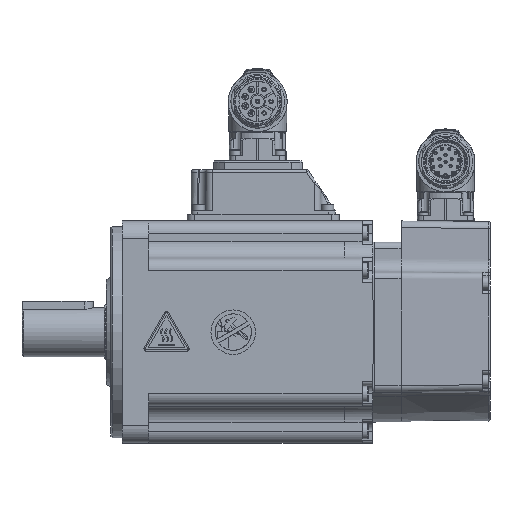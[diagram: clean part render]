
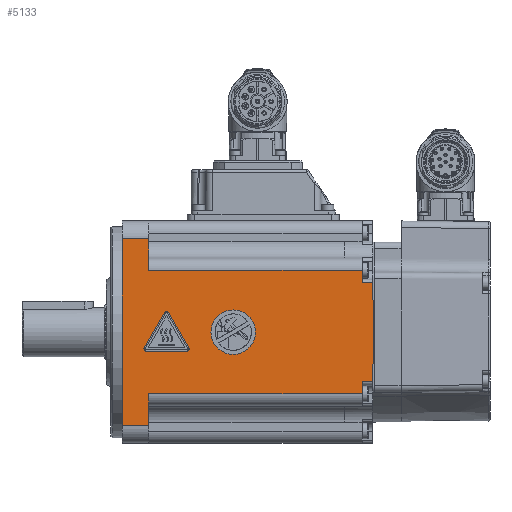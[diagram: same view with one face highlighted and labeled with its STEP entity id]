
A CAD part, front view. The second image highlights one B-rep face of the part: STEP entity #5133.
In plain terms, the highlighted planar face has unit normal (0, -1, 0).
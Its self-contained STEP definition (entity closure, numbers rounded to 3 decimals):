
#5133 = ADVANCED_FACE( '', ( #12302, #12303, #12304 ), #12305, .T. );
#12302 = FACE_BOUND( '', #24483, .T. );
#12303 = FACE_OUTER_BOUND( '', #24484, .T. );
#12304 = FACE_BOUND( '', #24485, .T. );
#12305 = PLANE( '', #24486 );
#24483 = EDGE_LOOP( '', ( #43947 ) );
#24484 = EDGE_LOOP( '', ( #43948, #43949, #43950, #43951, #43952, #43953, #43954, #43955, #43956, #43957, #43958, #43959, #43960 ) );
#24485 = EDGE_LOOP( '', ( #43961, #43962, #43963, #43964, #43965, #43966 ) );
#24486 = AXIS2_PLACEMENT_3D( '', #43967, #43968, #43969 );
#43947 = ORIENTED_EDGE( '', *, *, #63269, .F. );
#43948 = ORIENTED_EDGE( '', *, *, #62633, .T. );
#43949 = ORIENTED_EDGE( '', *, *, #63270, .T. );
#43950 = ORIENTED_EDGE( '', *, *, #63271, .T. );
#43951 = ORIENTED_EDGE( '', *, *, #63272, .T. );
#43952 = ORIENTED_EDGE( '', *, *, #63273, .T. );
#43953 = ORIENTED_EDGE( '', *, *, #62337, .T. );
#43954 = ORIENTED_EDGE( '', *, *, #63274, .T. );
#43955 = ORIENTED_EDGE( '', *, *, #63275, .T. );
#43956 = ORIENTED_EDGE( '', *, *, #63062, .F. );
#43957 = ORIENTED_EDGE( '', *, *, #63276, .T. );
#43958 = ORIENTED_EDGE( '', *, *, #63277, .T. );
#43959 = ORIENTED_EDGE( '', *, *, #63278, .T. );
#43960 = ORIENTED_EDGE( '', *, *, #63279, .F. );
#43961 = ORIENTED_EDGE( '', *, *, #63280, .F. );
#43962 = ORIENTED_EDGE( '', *, *, #62112, .F. );
#43963 = ORIENTED_EDGE( '', *, *, #63281, .F. );
#43964 = ORIENTED_EDGE( '', *, *, #59310, .F. );
#43965 = ORIENTED_EDGE( '', *, *, #60570, .F. );
#43966 = ORIENTED_EDGE( '', *, *, #63282, .F. );
#43967 = CARTESIAN_POINT( '', ( 138.642, -50., -50. ) );
#43968 = DIRECTION( '', ( 0., -1., 0. ) );
#43969 = DIRECTION( '', ( 1., 0., 0. ) );
#59310 = EDGE_CURVE( 'NONE', #69763, #69764, #69765, .T. );
#60570 = EDGE_CURVE( 'NONE', #71861, #69763, #71862, .T. );
#62112 = EDGE_CURVE( 'NONE', #74300, #74301, #74302, .T. );
#62337 = EDGE_CURVE( '', #74638, #74635, #74639, .F. );
#62633 = EDGE_CURVE( '', #75059, #75057, #75060, .T. );
#63062 = EDGE_CURVE( '', #75701, #75703, #75704, .T. );
#63269 = EDGE_CURVE( '', #76000, #76000, #76001, .T. );
#63270 = EDGE_CURVE( '', #75057, #76002, #76003, .T. );
#63271 = EDGE_CURVE( '', #76002, #76004, #76005, .F. );
#63272 = EDGE_CURVE( '', #76004, #76006, #76007, .T. );
#63273 = EDGE_CURVE( '', #76006, #74638, #76008, .T. );
#63274 = EDGE_CURVE( '', #74635, #76009, #76010, .T. );
#63275 = EDGE_CURVE( '', #76009, #75703, #76011, .T. );
#63276 = EDGE_CURVE( '', #75701, #76012, #76013, .T. );
#63277 = EDGE_CURVE( '', #76012, #76014, #76015, .T. );
#63278 = EDGE_CURVE( '', #76014, #76016, #76017, .F. );
#63279 = EDGE_CURVE( '', #75059, #76016, #76018, .T. );
#63280 = EDGE_CURVE( 'NONE', #74301, #76019, #76020, .T. );
#63281 = EDGE_CURVE( 'NONE', #69764, #74300, #76021, .T. );
#63282 = EDGE_CURVE( 'NONE', #76019, #71861, #76022, .T. );
#69763 = VERTEX_POINT( '', #85967 );
#69764 = VERTEX_POINT( 'NONE', #85968 );
#69765 = LINE( '', #85969, #85970 );
#71861 = VERTEX_POINT( 'NONE', #90269 );
#71862 = CIRCLE( '', #90270, 1. );
#74300 = VERTEX_POINT( 'NONE', #95251 );
#74301 = VERTEX_POINT( 'NONE', #95252 );
#74302 = LINE( '', #95253, #95254 );
#74635 = VERTEX_POINT( '', #96004 );
#74638 = VERTEX_POINT( '', #96007 );
#74639 = LINE( '', #96008, #96009 );
#75057 = VERTEX_POINT( '', #96803 );
#75059 = VERTEX_POINT( '', #96805 );
#75060 = LINE( '', #96806, #96807 );
#75701 = VERTEX_POINT( '', #97848 );
#75703 = VERTEX_POINT( '', #97850 );
#75704 = LINE( '', #97851, #97852 );
#76000 = VERTEX_POINT( '', #98375 );
#76001 = CIRCLE( '', #98376, 10. );
#76002 = VERTEX_POINT( '', #98377 );
#76003 = LINE( '', #98378, #98379 );
#76004 = VERTEX_POINT( '', #98380 );
#76005 = LINE( '', #98381, #98382 );
#76006 = VERTEX_POINT( '', #98383 );
#76007 = LINE( '', #98384, #98385 );
#76008 = LINE( '', #98386, #98387 );
#76009 = VERTEX_POINT( '', #98388 );
#76010 = LINE( '', #98389, #98390 );
#76011 = LINE( '', #98391, #98392 );
#76012 = VERTEX_POINT( '', #98393 );
#76013 = LINE( '', #98394, #98395 );
#76014 = VERTEX_POINT( '', #98396 );
#76015 = LINE( '', #98397, #98398 );
#76016 = VERTEX_POINT( '', #98399 );
#76017 = LINE( '', #98400, #98401 );
#76018 = LINE( '', #98402, #98403 );
#76019 = VERTEX_POINT( 'NONE', #98404 );
#76020 = CIRCLE( '', #98405, 1. );
#76021 = CIRCLE( '', #98406, 1. );
#76022 = LINE( '', #98407, #98408 );
#85967 = CARTESIAN_POINT( '', ( -91.251, -50., -7. ) );
#85968 = CARTESIAN_POINT( '', ( -100.384, -50., 8.801 ) );
#85969 = CARTESIAN_POINT( '', ( -100.384, -50., 8.801 ) );
#85970 = VECTOR( '', #110213, 1000. );
#90269 = CARTESIAN_POINT( '', ( -92.117, -50., -8.5 ) );
#90270 = AXIS2_PLACEMENT_3D( '', #111703, #111704, #111705 );
#95251 = CARTESIAN_POINT( '', ( -102.116, -50., 8.801 ) );
#95252 = CARTESIAN_POINT( '', ( -111.249, -50., -7. ) );
#95253 = CARTESIAN_POINT( '', ( -111.249, -50., -7. ) );
#95254 = VECTOR( '', #113592, 1000. );
#96004 = CARTESIAN_POINT( '', ( -13.25, -50., 22.25 ) );
#96007 = CARTESIAN_POINT( '', ( -8.444, -50., 22.25 ) );
#96008 = CARTESIAN_POINT( '', ( -13.25, -50., 22.25 ) );
#96009 = VECTOR( '', #113822, 1000. );
#96803 = CARTESIAN_POINT( '', ( -13.25, -50., -27.75 ) );
#96805 = CARTESIAN_POINT( '', ( -109.25, -50., -27.75 ) );
#96806 = CARTESIAN_POINT( '', ( 138.642, -50., -27.75 ) );
#96807 = VECTOR( '', #114155, 1000. );
#97848 = CARTESIAN_POINT( '', ( -109.25, -50., 42. ) );
#97850 = CARTESIAN_POINT( '', ( -109.25, -50., 27.75 ) );
#97851 = CARTESIAN_POINT( '', ( -109.25, -50., -50. ) );
#97852 = VECTOR( '', #114673, 1000. );
#98375 = CARTESIAN_POINT( '', ( -71.25, -50., -10. ) );
#98376 = AXIS2_PLACEMENT_3D( '', #114895, #114896, #114897 );
#98377 = CARTESIAN_POINT( '', ( -13.25, -50., -22.25 ) );
#98378 = CARTESIAN_POINT( '', ( -13.25, -50., 50. ) );
#98379 = VECTOR( '', #114898, 1000. );
#98380 = CARTESIAN_POINT( '', ( -8.444, -50., -22.25 ) );
#98381 = CARTESIAN_POINT( '', ( -8.25, -50., -22.25 ) );
#98382 = VECTOR( '', #114899, 1000. );
#98383 = CARTESIAN_POINT( '', ( -8.25, -50., 0. ) );
#98384 = CARTESIAN_POINT( '', ( -7.818, -50., 49.545 ) );
#98385 = VECTOR( '', #114900, 1000. );
#98386 = CARTESIAN_POINT( '', ( -8.69, -50., 50.448 ) );
#98387 = VECTOR( '', #114901, 1000. );
#98388 = CARTESIAN_POINT( '', ( -13.25, -50., 27.75 ) );
#98389 = CARTESIAN_POINT( '', ( -13.25, -50., 50. ) );
#98390 = VECTOR( '', #114902, 1000. );
#98391 = CARTESIAN_POINT( '', ( 138.642, -50., 27.75 ) );
#98392 = VECTOR( '', #114903, 1000. );
#98393 = CARTESIAN_POINT( '', ( -121.25, -50., 42. ) );
#98394 = CARTESIAN_POINT( '', ( 138.642, -50., 42. ) );
#98395 = VECTOR( '', #114904, 1000. );
#98396 = CARTESIAN_POINT( '', ( -121.25, -50., -42. ) );
#98397 = CARTESIAN_POINT( '', ( -121.25, -50., -50. ) );
#98398 = VECTOR( '', #114905, 1000. );
#98399 = CARTESIAN_POINT( '', ( -109.25, -50., -42. ) );
#98400 = CARTESIAN_POINT( '', ( 138.642, -50., -42. ) );
#98401 = VECTOR( '', #114906, 1000. );
#98402 = CARTESIAN_POINT( '', ( -109.25, -50., -50. ) );
#98403 = VECTOR( '', #114907, 1000. );
#98404 = CARTESIAN_POINT( '', ( -110.383, -50., -8.5 ) );
#98405 = AXIS2_PLACEMENT_3D( '', #114908, #114909, #114910 );
#98406 = AXIS2_PLACEMENT_3D( '', #114911, #114912, #114913 );
#98407 = CARTESIAN_POINT( '', ( -110.383, -50., -8.5 ) );
#98408 = VECTOR( '', #114914, 1000. );
#110213 = DIRECTION( '', ( -0.5, 0., 0.866 ) );
#111703 = CARTESIAN_POINT( '', ( -92.117, -50., -7.5 ) );
#111704 = DIRECTION( '', ( 0., -1., 0. ) );
#111705 = DIRECTION( '', ( 1., 0., 0. ) );
#113592 = DIRECTION( '', ( -0.5, 0., -0.866 ) );
#113822 = DIRECTION( '', ( 1., 0., 0. ) );
#114155 = DIRECTION( '', ( 1., 0., 0. ) );
#114673 = DIRECTION( '', ( 0., 0., -1. ) );
#114895 = CARTESIAN_POINT( '', ( -71.25, -50., 0. ) );
#114896 = DIRECTION( '', ( 0., -1., 0. ) );
#114897 = DIRECTION( '', ( 0., 0., -1. ) );
#114898 = DIRECTION( '', ( 0., 0., 1. ) );
#114899 = DIRECTION( '', ( -1., 0., 0. ) );
#114900 = DIRECTION( '', ( 0.009, 0., 1. ) );
#114901 = DIRECTION( '', ( -0.009, 0., 1. ) );
#114902 = DIRECTION( '', ( 0., 0., 1. ) );
#114903 = DIRECTION( '', ( -1., 0., 0. ) );
#114904 = DIRECTION( '', ( -1., 0., 0. ) );
#114905 = DIRECTION( '', ( 0., 0., -1. ) );
#114906 = DIRECTION( '', ( -1., 0., 0. ) );
#114907 = DIRECTION( '', ( 0., 0., -1. ) );
#114908 = CARTESIAN_POINT( '', ( -110.383, -50., -7.5 ) );
#114909 = DIRECTION( '', ( 0., -1., 0. ) );
#114910 = DIRECTION( '', ( -1., 0., 0. ) );
#114911 = CARTESIAN_POINT( '', ( -101.25, -50., 8.301 ) );
#114912 = DIRECTION( '', ( 0., -1., 0. ) );
#114913 = DIRECTION( '', ( -1., 0., 0. ) );
#114914 = DIRECTION( '', ( 1., 0., 0. ) );
